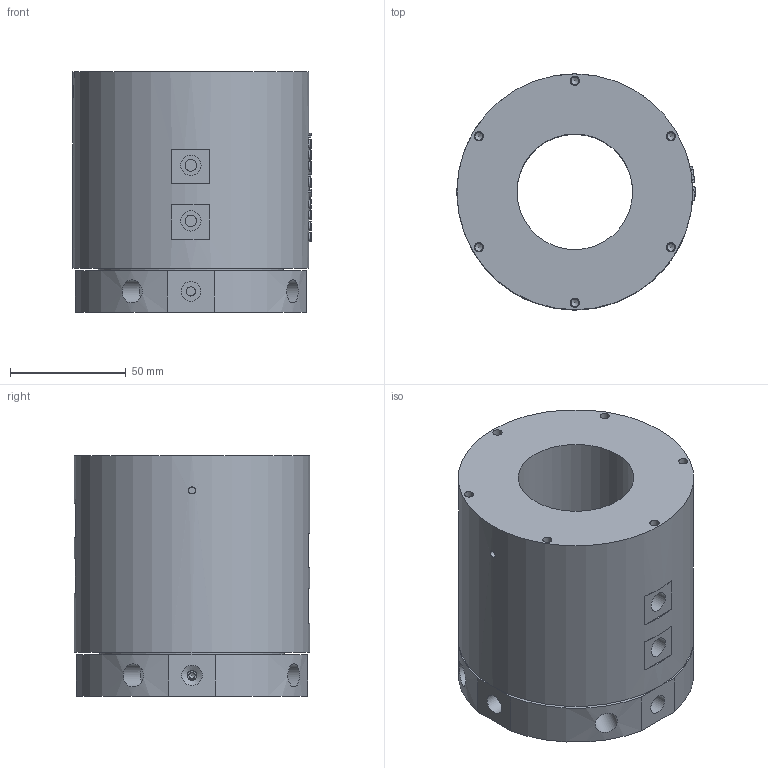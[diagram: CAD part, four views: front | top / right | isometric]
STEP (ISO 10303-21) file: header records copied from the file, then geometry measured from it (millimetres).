
FILE_DESCRIPTION(/* description */ (''),/* implementation_level */ '2;1');
FILE_NAME(/* name */ 'HQ0401D50.stp',/* time_stamp */ '2024-07-01T12:04:18+08:00',/* author */ (''),/* organization */ (''),/* preprocessor_version */ 'ST-DEVELOPER v16.7',/* originating_system */ 'SIEMENS PLM Software NX 12.0',/* authorisation */ '');
FILE_SCHEMA (('AUTOMOTIVE_DESIGN { 1 0 10303 214 3 1 1 1 }'));
Length unit declared in the file: millimetre
Products named in the file (1): 86130A48DBE8x96f
Bounding box: 103 x 102 x 104 mm (x, y, z)
Volume: 627650.7 mm3; surface area: 76141.6 mm2
Topology: 1 solids, 1 shells, 441 faces, 1082 edges, 718 vertices
Faces by surface type: plane 169, extrusion 159, cylinder 68, bspline 27, cone 18
Full cylindrical faces by diameter (mm): 3.3 x6, 4 x10, 4.2 x8, 4.3 x2, 4.5 x4, 5 x4, 6.8 x4, 8.5 x2, 8.8 x6, 10 x4, 50 x1, 80 x1, 102 x1
Entity records: 18590 total; most frequent: CARTESIAN_POINT 9206, ORIENTED_EDGE 1968, DIRECTION 1437, EDGE_CURVE 984, VERTEX_POINT 708, EDGE_LOOP 606, B_SPLINE_CURVE_WITH_KNOTS 560, VECTOR 559
